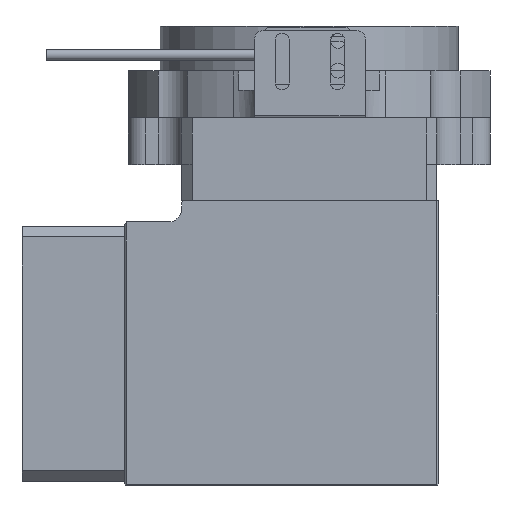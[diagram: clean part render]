
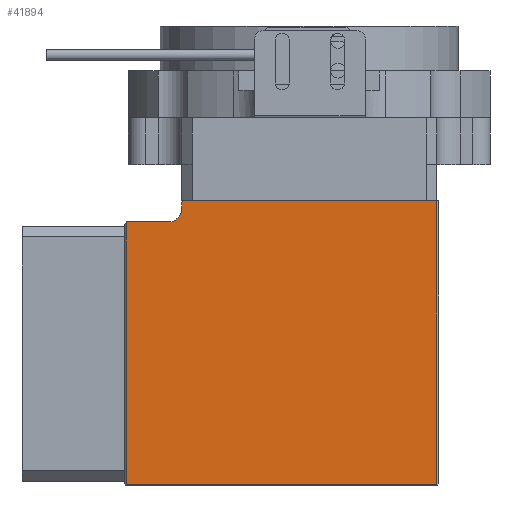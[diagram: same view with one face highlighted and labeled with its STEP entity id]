
A CAD part, front view. The second image highlights one B-rep face of the part: STEP entity #41894.
In plain terms, the highlighted planar face has unit normal (0, -1, 0).
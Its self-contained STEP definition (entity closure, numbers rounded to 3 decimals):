
#1802 = EDGE_CURVE ( 'NONE', #15506, #32563, #24626, .T. ) ;
#2404 = VECTOR ( 'NONE', #48211, 1000. ) ;
#4384 = DIRECTION ( 'NONE',  ( 0., 0., -1. ) ) ;
#4871 = DIRECTION ( 'NONE',  ( 0., 0., -1. ) ) ;
#4955 = DIRECTION ( 'NONE',  ( 0., 0., -1. ) ) ;
#5063 = CARTESIAN_POINT ( 'NONE',  ( -47.378, -60.717, -7.75 ) ) ;
#5191 = VECTOR ( 'NONE', #25386, 1000. ) ;
#5441 = AXIS2_PLACEMENT_3D ( 'NONE', #24821, #17759, #4955 ) ;
#5461 = PLANE ( 'NONE',  #5441 ) ;
#5915 = EDGE_CURVE ( 'NONE', #30025, #35037, #51508, .T. ) ;
#6029 = CARTESIAN_POINT ( 'NONE',  ( -39.378, -60.717, -2.75 ) ) ;
#6864 = ORIENTED_EDGE ( 'NONE', *, *, #13671, .T. ) ;
#6968 = EDGE_CURVE ( 'NONE', #32563, #10074, #38328, .T. ) ;
#8115 = ORIENTED_EDGE ( 'NONE', *, *, #30845, .T. ) ;
#8211 = VECTOR ( 'NONE', #21469, 1000. ) ;
#8944 = ORIENTED_EDGE ( 'NONE', *, *, #1802, .T. ) ;
#9435 = CARTESIAN_POINT ( 'NONE',  ( 25.622, -60.717, 22.707 ) ) ;
#9620 = CIRCLE ( 'NONE', #23802, 3. ) ;
#10074 = VERTEX_POINT ( 'NONE', #45356 ) ;
#10856 = VERTEX_POINT ( 'NONE', #50335 ) ;
#11148 = CARTESIAN_POINT ( 'NONE',  ( -47.378, -60.717, -69.45 ) ) ;
#11240 = ORIENTED_EDGE ( 'NONE', *, *, #38597, .T. ) ;
#11563 = ORIENTED_EDGE ( 'NONE', *, *, #21997, .T. ) ;
#12009 = VECTOR ( 'NONE', #32293, 1000. ) ;
#12049 = CARTESIAN_POINT ( 'NONE',  ( 25.622, -60.717, -69.45 ) ) ;
#12687 = CARTESIAN_POINT ( 'NONE',  ( -34.378, -60.717, -4.75 ) ) ;
#13671 = EDGE_CURVE ( 'NONE', #25768, #33569, #9620, .T. ) ;
#15506 = VERTEX_POINT ( 'NONE', #12049 ) ;
#15800 = CARTESIAN_POINT ( 'NONE',  ( -47.378, -60.717, -69.25 ) ) ;
#17559 = VECTOR ( 'NONE', #4384, 1000. ) ;
#17759 = DIRECTION ( 'NONE',  ( 0., 1., 0. ) ) ;
#21343 = LINE ( 'NONE', #48712, #12009 ) ;
#21469 = DIRECTION ( 'NONE',  ( -1., 0., 0. ) ) ;
#21997 = EDGE_CURVE ( 'NONE', #35037, #15506, #32308, .T. ) ;
#22304 = ORIENTED_EDGE ( 'NONE', *, *, #5915, .T. ) ;
#23802 = AXIS2_PLACEMENT_3D ( 'NONE', #36190, #40847, #4871 ) ;
#24626 = LINE ( 'NONE', #9435, #5191 ) ;
#24821 = CARTESIAN_POINT ( 'NONE',  ( 39.122, -60.717, 22.707 ) ) ;
#25203 = CARTESIAN_POINT ( 'NONE',  ( -47.878, -60.717, -7.75 ) ) ;
#25386 = DIRECTION ( 'NONE',  ( 0., 0., 1. ) ) ;
#25768 = VERTEX_POINT ( 'NONE', #12687 ) ;
#25846 = FACE_OUTER_BOUND ( 'NONE', #30498, .T. ) ;
#26467 = VECTOR ( 'NONE', #42881, 1000. ) ;
#29365 = ORIENTED_EDGE ( 'NONE', *, *, #41210, .T. ) ;
#30025 = VERTEX_POINT ( 'NONE', #5063 ) ;
#30498 = EDGE_LOOP ( 'NONE', ( #11240, #22304, #11563, #8944, #44804, #29365, #8115, #6864 ) ) ;
#30845 = EDGE_CURVE ( 'NONE', #10856, #25768, #44035, .T. ) ;
#32293 = DIRECTION ( 'NONE',  ( -0.707, 0., -0.707 ) ) ;
#32308 = LINE ( 'NONE', #48473, #2404 ) ;
#32500 = LINE ( 'NONE', #25203, #47637 ) ;
#32563 = VERTEX_POINT ( 'NONE', #39210 ) ;
#33569 = VERTEX_POINT ( 'NONE', #37743 ) ;
#35037 = VERTEX_POINT ( 'NONE', #11148 ) ;
#36190 = CARTESIAN_POINT ( 'NONE',  ( -37.378, -60.717, -4.75 ) ) ;
#36403 = DIRECTION ( 'NONE',  ( -1., 0., 0. ) ) ;
#37743 = CARTESIAN_POINT ( 'NONE',  ( -37.378, -60.717, -7.75 ) ) ;
#38328 = LINE ( 'NONE', #6029, #8211 ) ;
#38597 = EDGE_CURVE ( 'NONE', #33569, #30025, #32500, .T. ) ;
#39210 = CARTESIAN_POINT ( 'NONE',  ( 25.622, -60.717, -2.75 ) ) ;
#40116 = CARTESIAN_POINT ( 'NONE',  ( -34.378, -60.717, 2.25 ) ) ;
#40847 = DIRECTION ( 'NONE',  ( 0., 1., 0. ) ) ;
#41210 = EDGE_CURVE ( 'NONE', #10074, #10856, #21343, .T. ) ;
#41894 = ADVANCED_FACE ( 'NONE', ( #25846 ), #5461, .F. ) ;
#42881 = DIRECTION ( 'NONE',  ( 0., 0., -1. ) ) ;
#44035 = LINE ( 'NONE', #40116, #17559 ) ;
#44804 = ORIENTED_EDGE ( 'NONE', *, *, #6968, .T. ) ;
#45356 = CARTESIAN_POINT ( 'NONE',  ( -33.878, -60.717, -2.75 ) ) ;
#47637 = VECTOR ( 'NONE', #36403, 1000. ) ;
#48211 = DIRECTION ( 'NONE',  ( 1., 0., 0. ) ) ;
#48473 = CARTESIAN_POINT ( 'NONE',  ( 27.622, -60.717, -69.45 ) ) ;
#48712 = CARTESIAN_POINT ( 'NONE',  ( -33.878, -60.717, -2.75 ) ) ;
#50335 = CARTESIAN_POINT ( 'NONE',  ( -34.378, -60.717, -3.25 ) ) ;
#51508 = LINE ( 'NONE', #15800, #26467 ) ;
